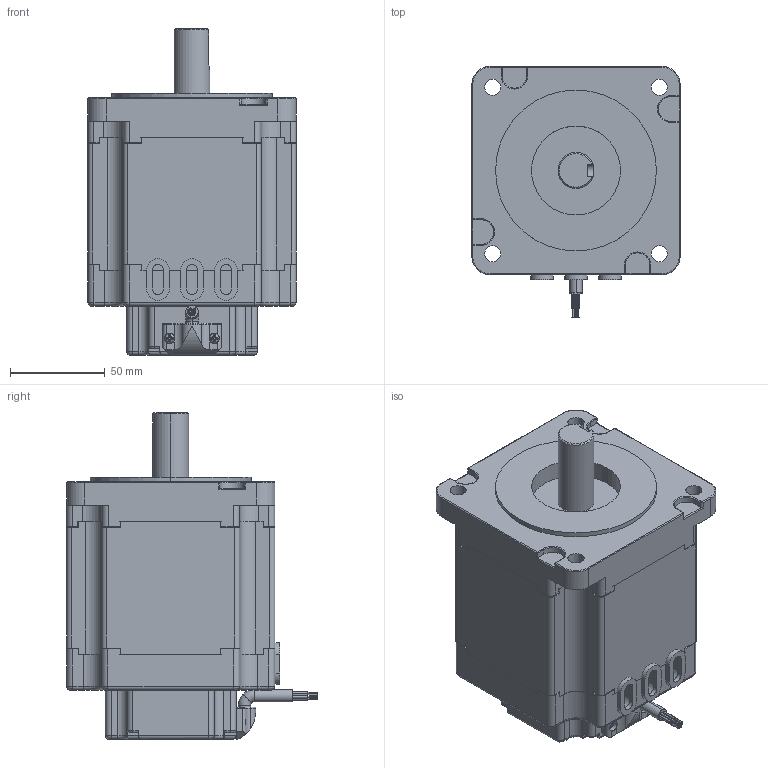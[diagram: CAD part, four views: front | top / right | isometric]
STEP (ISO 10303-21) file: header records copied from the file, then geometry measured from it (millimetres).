
FILE_DESCRIPTION((''),'2;1');
FILE_NAME('110BL110_ASM','2024-09-01T17:04:36',('jiangtao'),(''),'CREO PARAMETRIC BY PTC INC, 2018050','CREO PARAMETRIC BY PTC INC, 2018050','');
FILE_SCHEMA(('CONFIG_CONTROL_DESIGN'));
Length unit declared in the file: millimetre
Products named in the file (8): 00_1-1935_1_1; 000_2_1_1; 000_1_1_1; 00_1-6130_1_1; ASM0004_ASM_1_ASM_1_1_ASM; PRT0001_1; 86BL_ASM_1_1_ASM; 110BL110_ASM
Assembly tree (7 placements, depth 4):
  110BL110_ASM
    86BL_ASM_1_1_ASM
      ASM0004_ASM_1_ASM_1_1_ASM
        00_1-1935_1_1
        000_2_1_1
        000_1_1_1
        00_1-6130_1_1
      PRT0001_1
Bounding box: 110 x 132.5 x 172.5 mm (x, y, z)
Volume: 1314040.8 mm3; surface area: 144560.9 mm2
Topology: 5 solids, 6 shells, 595 faces, 1522 edges, 958 vertices
Faces by surface type: cylinder 280, plane 224, bspline 42, torus 38, sphere 6, cone 5
Entity records: 19185 total; most frequent: CARTESIAN_POINT 4529, DIRECTION 3110, ORIENTED_EDGE 3032, EDGE_CURVE 1516, AXIS2_PLACEMENT_3D 1170, VERTEX_POINT 958, VECTOR 770, LINE 770
